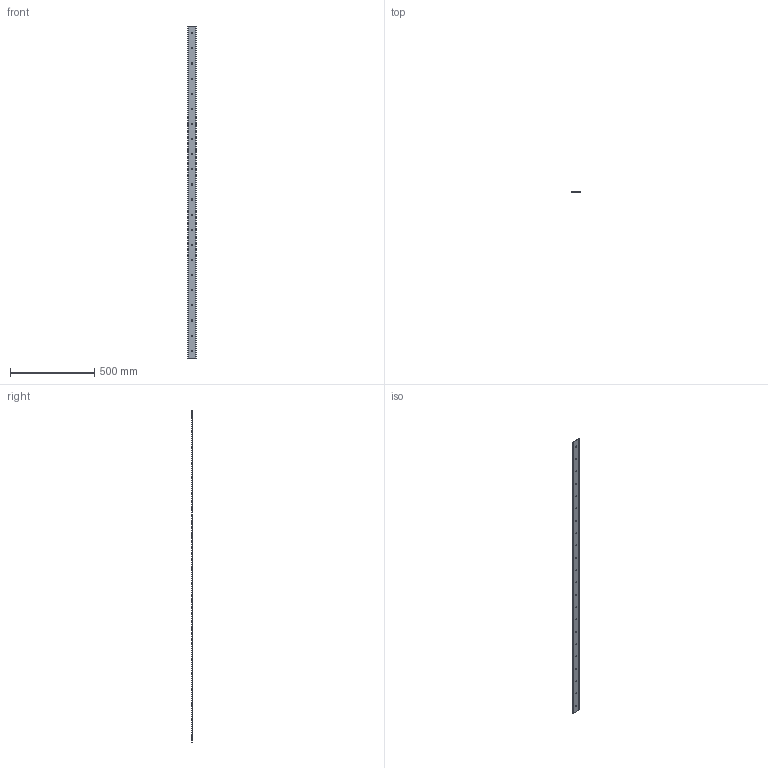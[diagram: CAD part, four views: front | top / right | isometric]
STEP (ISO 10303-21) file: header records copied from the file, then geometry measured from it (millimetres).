
FILE_DESCRIPTION(('STEP AP203'),'1');
FILE_NAME('slide_s50l1976p3.stp','2022-07-01T06:19:27',('TraceParts'),('TraceParts S.A.'),'Spatial InterOp 3D',' ',' ');
FILE_SCHEMA(('CONFIG_CONTROL_DESIGN'));
Length unit declared in the file: millimetre
Products named in the file (1): 1
Bounding box: 50.45 x 4.93 x 1976 mm (x, y, z)
Volume: 462938.7 mm3; surface area: 208339.4 mm2
Topology: 1 solids, 1 shells, 56 faces, 162 edges, 108 vertices
Faces by surface type: cylinder 48, plane 8
Entity records: 2034 total; most frequent: DIRECTION 372, CARTESIAN_POINT 327, ORIENTED_EDGE 324, EDGE_CURVE 162, AXIS2_PLACEMENT_3D 153, VERTEX_POINT 108, EDGE_LOOP 100, CIRCLE 96
